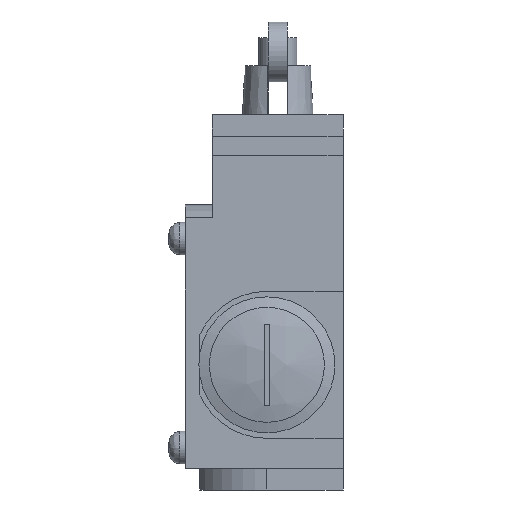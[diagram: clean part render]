
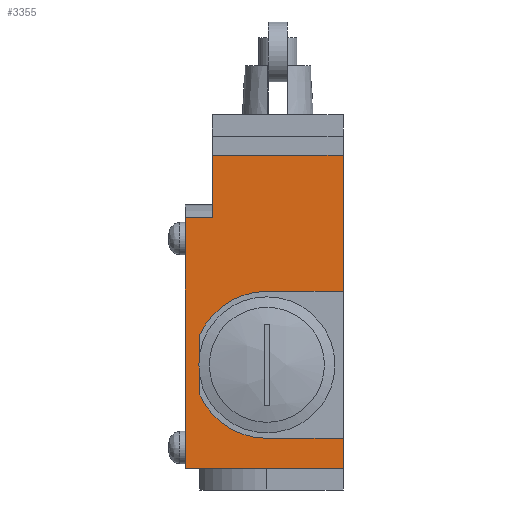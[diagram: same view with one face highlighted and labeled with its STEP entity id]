
A CAD part, left-side view. The second image highlights one B-rep face of the part: STEP entity #3355.
In plain terms, the highlighted planar face has unit normal (-1, 0, 0) as drawn and (1, 0, 0) by its records, which use the part's own axes.
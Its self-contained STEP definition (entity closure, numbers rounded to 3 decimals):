
#1421=CARTESIAN_POINT('',(26.,0.0,-0.35));
#1422=VERTEX_POINT('',#1421);
#1429=CARTESIAN_POINT('',(26.0,0.0,28.65));
#1430=VERTEX_POINT('',#1429);
#1431=CARTESIAN_POINT('',(26.,0.0,-0.35));
#1432=DIRECTION('',(0.0,0.0,1.0));
#1433=VECTOR('',#1432,29.);
#1434=LINE('',#1431,#1433);
#1435=EDGE_CURVE('',#1422,#1430,#1434,.T.);
#1554=CARTESIAN_POINT('',(26.,13.662,26.05));
#1555=VERTEX_POINT('',#1554);
#1562=CARTESIAN_POINT('',(26.,5.5,13.65));
#1563=VERTEX_POINT('',#1562);
#1564=CARTESIAN_POINT('',(26.,19.,13.65));
#1565=DIRECTION('',(-1.0,0.0,0.0));
#1566=DIRECTION('',(0.0,-1.0,0.0));
#1567=AXIS2_PLACEMENT_3D('',#1564,#1565,#1566);
#1568=CIRCLE('',#1567,13.5);
#1569=EDGE_CURVE('',#1563,#1555,#1568,.T.);
#1594=CARTESIAN_POINT('',(26.,5.5,-0.35));
#1595=VERTEX_POINT('',#1594);
#1596=CARTESIAN_POINT('',(26.,5.5,-0.35));
#1597=DIRECTION('',(0.0,0.0,1.0));
#1598=VECTOR('',#1597,14.);
#1599=LINE('',#1596,#1598);
#1600=EDGE_CURVE('',#1595,#1563,#1599,.T.);
#1626=CARTESIAN_POINT('',(26.,32.5,-0.35));
#1627=VERTEX_POINT('',#1626);
#1634=CARTESIAN_POINT('',(26.,32.5,13.65));
#1635=VERTEX_POINT('',#1634);
#1636=CARTESIAN_POINT('',(26.,32.5,13.65));
#1637=DIRECTION('',(0.0,0.0,-1.0));
#1638=VECTOR('',#1637,14.);
#1639=LINE('',#1636,#1638);
#1640=EDGE_CURVE('',#1635,#1627,#1639,.T.);
#1666=CARTESIAN_POINT('',(26.,24.338,26.05));
#1667=VERTEX_POINT('',#1666);
#1668=CARTESIAN_POINT('',(26.,19.,13.65));
#1669=DIRECTION('',(-1.0,0.0,0.0));
#1670=DIRECTION('',(0.0,0.395,0.919));
#1671=AXIS2_PLACEMENT_3D('',#1668,#1669,#1670);
#1672=CIRCLE('',#1671,13.5);
#1673=EDGE_CURVE('',#1667,#1635,#1672,.T.);
#1696=CARTESIAN_POINT('',(26.,13.662,26.05));
#1697=DIRECTION('',(0.0,1.0,0.0));
#1698=VECTOR('',#1697,10.675);
#1699=LINE('',#1696,#1698);
#1700=EDGE_CURVE('',#1555,#1667,#1699,.T.);
#2465=CARTESIAN_POINT('',(26.0,46.,28.65));
#2466=VERTEX_POINT('',#2465);
#2473=CARTESIAN_POINT('',(26.0,46.,23.65));
#2474=VERTEX_POINT('',#2473);
#2475=CARTESIAN_POINT('',(26.0,46.,23.65));
#2476=DIRECTION('',(0.0,0.0,1.0));
#2477=VECTOR('',#2476,5.);
#2478=LINE('',#2475,#2477);
#2479=EDGE_CURVE('',#2474,#2466,#2478,.T.);
#2498=CARTESIAN_POINT('',(26.0,46.,28.65));
#2499=DIRECTION('',(0.0,-1.0,0.0));
#2500=VECTOR('',#2499,46.);
#2501=LINE('',#2498,#2500);
#2502=EDGE_CURVE('',#2466,#1430,#2501,.T.);
#3295=CARTESIAN_POINT('',(26.,57.5,23.65));
#3296=VERTEX_POINT('',#3295);
#3303=CARTESIAN_POINT('',(26.,57.5,-0.35));
#3304=VERTEX_POINT('',#3303);
#3305=CARTESIAN_POINT('',(26.,57.5,-0.35));
#3306=DIRECTION('',(0.0,0.0,1.0));
#3307=VECTOR('',#3306,24.0);
#3308=LINE('',#3305,#3307);
#3309=EDGE_CURVE('',#3304,#3296,#3308,.T.);
#3321=CARTESIAN_POINT('',(26.,57.5,0.0));
#3322=DIRECTION('',(1.0,0.0,0.0));
#3323=DIRECTION('',(0.0,0.0,-1.0));
#3324=AXIS2_PLACEMENT_3D('',#3321,#3322,#3323);
#3325=PLANE('',#3324);
#3326=ORIENTED_EDGE('',*,*,#1640,.T.);
#3327=CARTESIAN_POINT('',(26.,32.5,-0.35));
#3328=DIRECTION('',(0.0,1.0,0.0));
#3329=VECTOR('',#3328,25.);
#3330=LINE('',#3327,#3329);
#3331=EDGE_CURVE('',#1627,#3304,#3330,.T.);
#3332=ORIENTED_EDGE('',*,*,#3331,.T.);
#3333=ORIENTED_EDGE('',*,*,#3309,.T.);
#3334=CARTESIAN_POINT('',(26.,57.5,23.65));
#3335=DIRECTION('',(0.0,-1.0,0.0));
#3336=VECTOR('',#3335,11.5);
#3337=LINE('',#3334,#3336);
#3338=EDGE_CURVE('',#3296,#2474,#3337,.T.);
#3339=ORIENTED_EDGE('',*,*,#3338,.T.);
#3340=ORIENTED_EDGE('',*,*,#2479,.T.);
#3341=ORIENTED_EDGE('',*,*,#2502,.T.);
#3342=ORIENTED_EDGE('',*,*,#1435,.F.);
#3343=CARTESIAN_POINT('',(26.,0.0,-0.35));
#3344=DIRECTION('',(0.0,1.0,0.0));
#3345=VECTOR('',#3344,5.5);
#3346=LINE('',#3343,#3345);
#3347=EDGE_CURVE('',#1422,#1595,#3346,.T.);
#3348=ORIENTED_EDGE('',*,*,#3347,.T.);
#3349=ORIENTED_EDGE('',*,*,#1600,.T.);
#3350=ORIENTED_EDGE('',*,*,#1569,.T.);
#3351=ORIENTED_EDGE('',*,*,#1700,.T.);
#3352=ORIENTED_EDGE('',*,*,#1673,.T.);
#3353=EDGE_LOOP('',(#3326,#3332,#3333,#3339,#3340,#3341,#3342,#3348,#3349,#3350,#3351,#3352));
#3354=FACE_OUTER_BOUND('',#3353,.T.);
#3355=ADVANCED_FACE('',(#3354),#3325,.T.);
